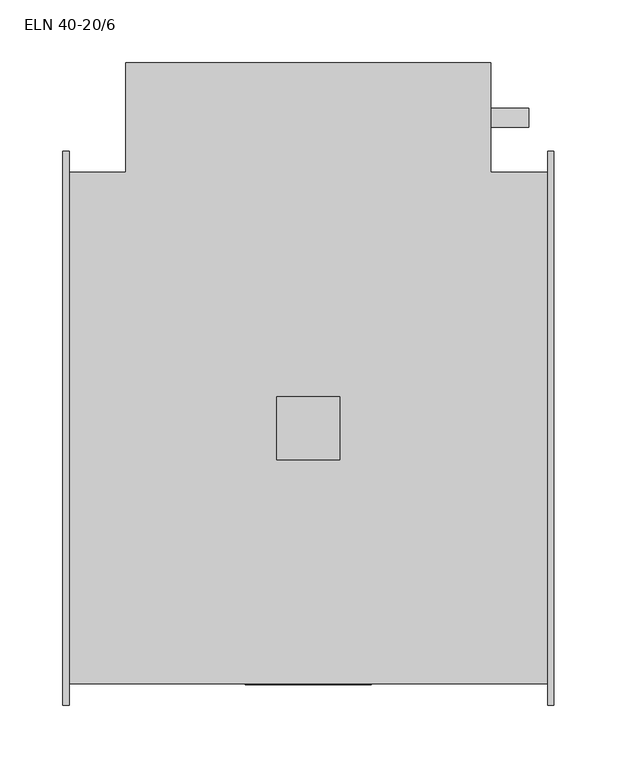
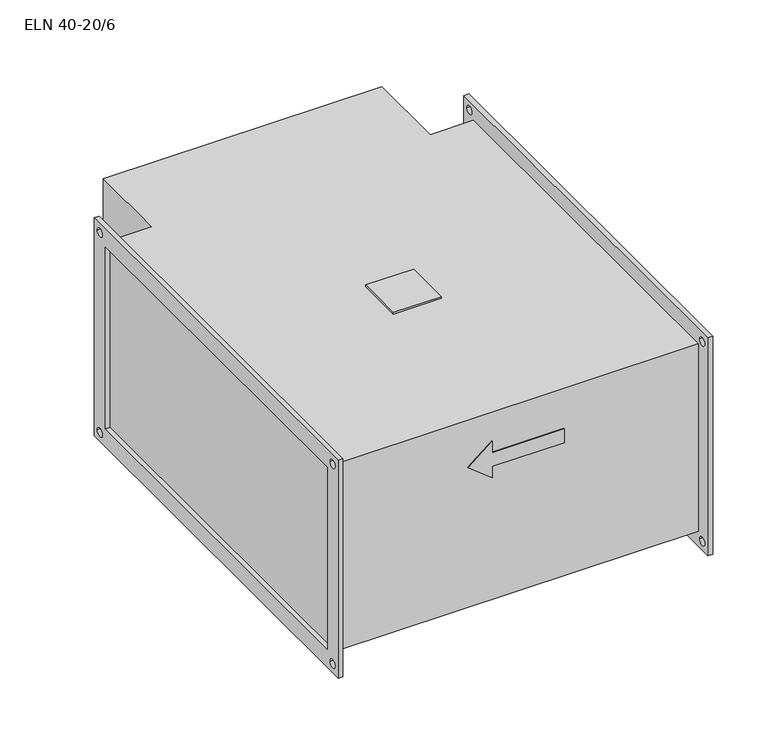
"""IFC4 building model written with IfcOpenShell, lengths in millimetres: proxy geometry, KORF_Нагреватель_Электрический_ELN : ELN 40-20/6."""

from ifc_helpers import new_model, si_unit, point, frame, frame_2d, origin, place, context, project, spatial, polyline, circle_curve, trimmed, segment, composite_curve, outline, extrude, source, transform, mapped, element, save


def eln_40_20_6_547116ec(model_context):
    return source(origin(), model_context, "Body", "SweptSolid", [
        extrude(outline(polyline([(170.0, -25.0), (170.0, 25.0), (220.0, 25.0), (220.0, -25.0), (170.0, -25.0)])), frame((0.0, 0.0, 103.0), z_axis=(0.0, 0.0, 1.0), x_axis=(1.0, 0.0, 0.0)), (0.0, 0.0, 1.0), 2.0),
        extrude(outline(composite_curve([segment(trimmed(circle_curve(frame_2d((246.5, -51.5)), 7.5), [point((239.0, -51.5))], [point((254.0, -51.5))], False, "CARTESIAN"), True, "CONTINUOUS"), segment(trimmed(circle_curve(frame_2d((246.5, -51.5)), 7.5), [point((254.0, -51.5))], [point((239.0, -51.5))], False, "CARTESIAN"), True, "CONTINUOUS")], self_intersect=False)), frame((340.0, 0.0, 0.0), z_axis=(1.0, 0.0, 0.0), x_axis=(0.0, 1.0, 0.0)), (0.0, 0.0, 1.0), 30.0),
        extrude(outline(composite_curve([segment(trimmed(circle_curve(frame_2d((246.5, -31.5)), 7.5), [point((239.0, -31.5))], [point((254.0, -31.5))], False, "CARTESIAN"), True, "CONTINUOUS"), segment(trimmed(circle_curve(frame_2d((246.5, -31.5)), 7.5), [point((254.0, -31.5))], [point((239.0, -31.5))], False, "CARTESIAN"), True, "CONTINUOUS")], self_intersect=False)), frame((340.0, 0.0, 0.0), z_axis=(1.0, 0.0, 0.0), x_axis=(0.0, 1.0, 0.0)), (0.0, 0.0, 1.0), 30.0),
        extrude(outline(composite_curve([segment(trimmed(circle_curve(frame_2d((246.5, -71.5)), 7.5), [point((239.0, -71.5))], [point((254.0, -71.5))], False, "CARTESIAN"), True, "CONTINUOUS"), segment(trimmed(circle_curve(frame_2d((246.5, -71.5)), 7.5), [point((254.0, -71.5))], [point((239.0, -71.5))], False, "CARTESIAN"), True, "CONTINUOUS")], self_intersect=False)), frame((340.0, 0.0, 0.0), z_axis=(1.0, 0.0, 0.0), x_axis=(0.0, 1.0, 0.0)), (0.0, 0.0, 1.0), 30.0),
        extrude(outline(polyline([(71.5, 170.0), (51.5, 145.0), (31.5, 170.0), (44.0, 170.0), (44.0, 245.0), (59.0, 245.0), (59.0, 170.0), (71.5, 170.0)])), frame((0.0, -204.0, 0.0), z_axis=(0.0, 1.0, 0.0), x_axis=(0.0, 0.0, 1.0)), (0.0, 0.0, 1.0), 1.0),
        extrude(outline(polyline([(385.0, 203.0), (385.0, -203.0), (5.0, -203.0), (5.0, 203.0), (50.0, 203.0), (50.0, 290.0), (340.0, 290.0), (340.0, 203.0), (385.0, 203.0)])), frame((0.0, 0.0, -103.0), z_axis=(0.0, 0.0, 1.0), x_axis=(1.0, 0.0, 0.0)), (0.0, 0.0, 1.0), 206.0),
        extrude(outline(polyline([(-220.0, 120.0), (220.0, 120.0), (220.0, -120.0), (-220.0, -120.0), (-220.0, 120.0)]), holes=[polyline([(-200.0, 100.0), (-200.0, -100.0), (200.0, -100.0), (200.0, 100.0), (-200.0, 100.0)]), composite_curve([segment(trimmed(circle_curve(frame_2d((210.0, 110.0)), 4.5), [point((205.5, 110.0))], [point((214.5, 110.0))], True, "CARTESIAN"), True, "CONTINUOUS"), segment(trimmed(circle_curve(frame_2d((210.0, 110.0)), 4.5), [point((214.5, 110.0))], [point((205.5, 110.0))], True, "CARTESIAN"), True, "CONTINUOUS")], self_intersect=False), composite_curve([segment(trimmed(circle_curve(frame_2d((-210.0, 110.0)), 4.5), [point((-214.5, 110.0))], [point((-205.5, 110.0))], True, "CARTESIAN"), True, "CONTINUOUS"), segment(trimmed(circle_curve(frame_2d((-210.0, 110.0)), 4.5), [point((-205.5, 110.0))], [point((-214.5, 110.0))], True, "CARTESIAN"), True, "CONTINUOUS")], self_intersect=False), composite_curve([segment(trimmed(circle_curve(frame_2d((-210.0, -110.0)), 4.5), [point((-214.5, -110.0))], [point((-205.5, -110.0))], True, "CARTESIAN"), True, "CONTINUOUS"), segment(trimmed(circle_curve(frame_2d((-210.0, -110.0)), 4.5), [point((-205.5, -110.0))], [point((-214.5, -110.0))], True, "CARTESIAN"), True, "CONTINUOUS")], self_intersect=False), composite_curve([segment(trimmed(circle_curve(frame_2d((210.0, -110.0)), 4.5), [point((205.5, -110.0))], [point((214.5, -110.0))], True, "CARTESIAN"), True, "CONTINUOUS"), segment(trimmed(circle_curve(frame_2d((210.0, -110.0)), 4.5), [point((214.5, -110.0))], [point((205.5, -110.0))], True, "CARTESIAN"), True, "CONTINUOUS")], self_intersect=False)]), frame((385.0, 0.0, 0.0), z_axis=(1.0, 0.0, 0.0), x_axis=(0.0, 1.0, 0.0)), (0.0, 0.0, 1.0), 5.0),
        extrude(outline(polyline([(-220.0, 120.0), (220.0, 120.0), (220.0, -120.0), (-220.0, -120.0), (-220.0, 120.0)]), holes=[polyline([(-200.0, 100.0), (-200.0, -100.0), (200.0, -100.0), (200.0, 100.0), (-200.0, 100.0)]), composite_curve([segment(trimmed(circle_curve(frame_2d((210.0, 110.0)), 4.5), [point((205.5, 110.0))], [point((214.5, 110.0))], True, "CARTESIAN"), True, "CONTINUOUS"), segment(trimmed(circle_curve(frame_2d((210.0, 110.0)), 4.5), [point((214.5, 110.0))], [point((205.5, 110.0))], True, "CARTESIAN"), True, "CONTINUOUS")], self_intersect=False), composite_curve([segment(trimmed(circle_curve(frame_2d((-210.0, 110.0)), 4.5), [point((-214.5, 110.0))], [point((-205.5, 110.0))], True, "CARTESIAN"), True, "CONTINUOUS"), segment(trimmed(circle_curve(frame_2d((-210.0, 110.0)), 4.5), [point((-205.5, 110.0))], [point((-214.5, 110.0))], True, "CARTESIAN"), True, "CONTINUOUS")], self_intersect=False), composite_curve([segment(trimmed(circle_curve(frame_2d((-210.0, -110.0)), 4.5), [point((-214.5, -110.0))], [point((-205.5, -110.0))], True, "CARTESIAN"), True, "CONTINUOUS"), segment(trimmed(circle_curve(frame_2d((-210.0, -110.0)), 4.5), [point((-205.5, -110.0))], [point((-214.5, -110.0))], True, "CARTESIAN"), True, "CONTINUOUS")], self_intersect=False), composite_curve([segment(trimmed(circle_curve(frame_2d((210.0, -110.0)), 4.5), [point((205.5, -110.0))], [point((214.5, -110.0))], True, "CARTESIAN"), True, "CONTINUOUS"), segment(trimmed(circle_curve(frame_2d((210.0, -110.0)), 4.5), [point((214.5, -110.0))], [point((205.5, -110.0))], True, "CARTESIAN"), True, "CONTINUOUS")], self_intersect=False)]), frame((0.0, 0.0, 0.0), z_axis=(1.0, 0.0, 0.0), x_axis=(0.0, 1.0, 0.0)), (0.0, 0.0, 1.0), 5.0),
    ])


if __name__ == "__main__":
    model = new_model("IFC4")
    model_context = context("Model", 3, world=origin())
    ifc_project = project(units=[si_unit("LENGTHUNIT", "METRE", prefix="MILLI")], contexts=[model_context])
    site = spatial("IfcSite", under=ifc_project)
    building = spatial("IfcBuilding", under=site)
    placement = place(None, origin())
    eln_40_20_6_shape = eln_40_20_6_547116ec(model_context)
    element("IfcBuildingElementProxy", 1, Name="KORF_Нагреватель_Электрический_ELN : ELN 40-20/6", ObjectType="KORF_Нагреватель_Электрический_ELN : ELN 40-20/6", at=placement, inside=building, context=model_context, shape_type="MappedRepresentation", body=[
        mapped(eln_40_20_6_shape, transform((0.0, 0.0, 0.0), x_axis=(1.0, 0.0, 0.0), y_axis=(0.0, 1.0, 0.0), z_axis=(0.0, 0.0, 1.0))),
    ])
    save(model, "model.ifc")
